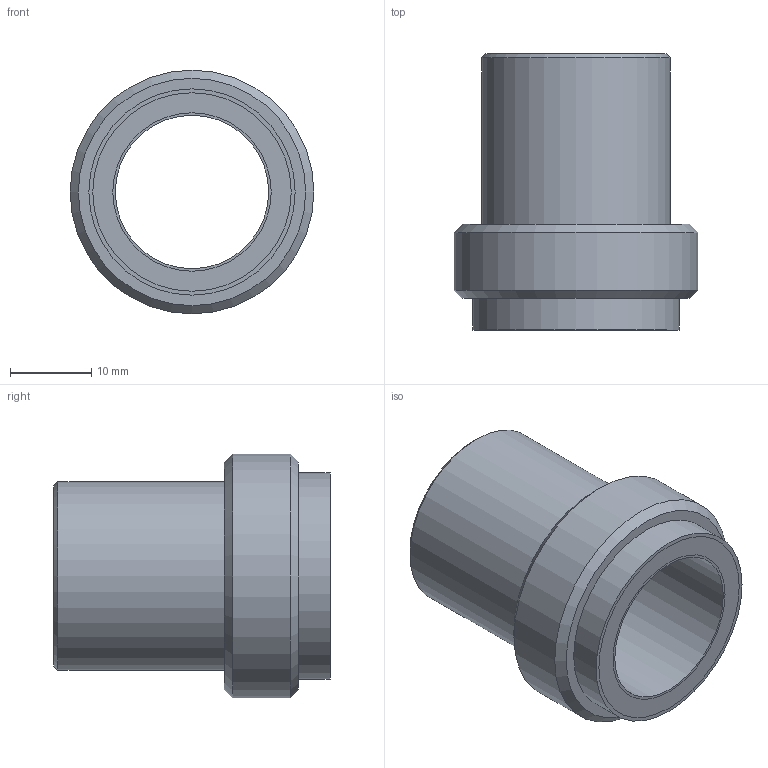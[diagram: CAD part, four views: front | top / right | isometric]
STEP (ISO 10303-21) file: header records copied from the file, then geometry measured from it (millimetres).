
FILE_DESCRIPTION(('Bauteilbeschreibung','HiCAD-Model','HiCAD-STEP-TRANSLATION','Bauteilbeschreibung'),'2;1');
FILE_NAME('G:/PROJ526_CAD-INTERNET-DOKU/KAPITEL_M-TUBUSC/STEP/061669_STEP.STP','2003-03-20T13:38:41+00:00',('Konstrukteur'),('Konstrukteur Firma GmbH'),'HiCAD2 V1102 STEP 20.9.2001','HiCAD2 V1102','confidential');
FILE_SCHEMA(('AUTOMOTIVE_DESIGN { 1 2 10303 214 0 1 1 1 }'));
Length unit declared in the file: millimetre
Products named in the file (4): A0002649; A00026490; GEWINDEHUELSE; GEWINDEHUELSE0
Assembly tree (3 placements, depth 2):
  A0002649
    A00026490
    GEWINDEHUELSE
    GEWINDEHUELSE0
Bounding box: 30 x 34 x 30 mm (x, y, z)
Volume: 7659.2 mm3; surface area: 10276.1 mm2
Topology: 3 solids, 3 shells, 19 faces, 34 edges, 23 vertices
Faces by surface type: plane 8, cylinder 8, cone 3
Full cylindrical faces by diameter (mm): 18.887 x1, 19.5 x2, 23.2 x1, 24.426 x2, 25.4 x1, 30 x1
Entity records: 748 total; most frequent: DIRECTION 88, CARTESIAN_POINT 63, AXIS2_PLACEMENT_3D 44, COLOUR_RGB 41, PRESENTATION_STYLE_ASSIGNMENT 41, EDGE_LOOP 38, ORIENTED_EDGE 38, OVER_RIDING_STYLED_ITEM 38
